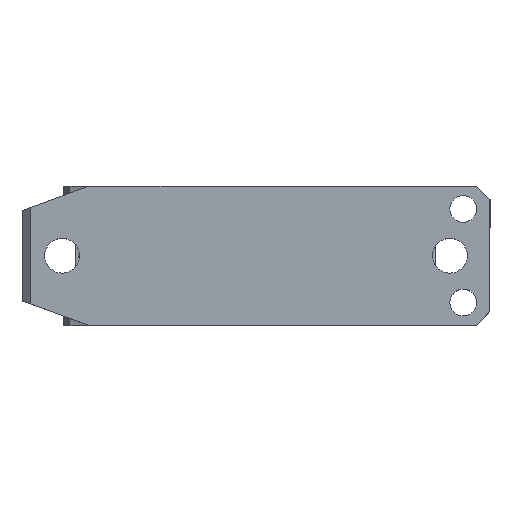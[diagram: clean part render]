
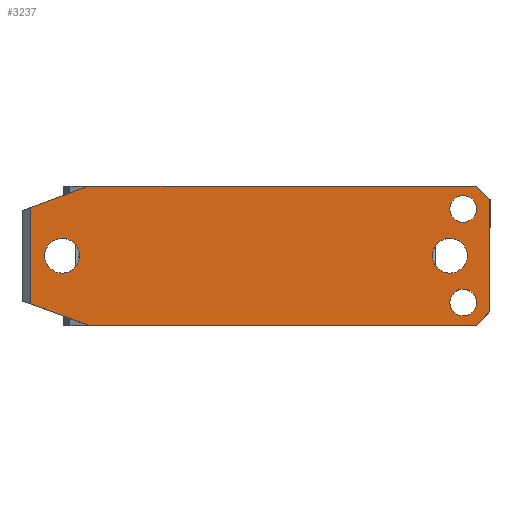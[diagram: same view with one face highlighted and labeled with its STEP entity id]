
A CAD part, top view. The second image highlights one B-rep face of the part: STEP entity #3237.
In plain terms, the highlighted planar face has unit normal (0, 0, 1).
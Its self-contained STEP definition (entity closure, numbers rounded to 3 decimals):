
#105 = VERTEX_POINT ( 'NONE', #7872 ) ;
#381 = DIRECTION ( 'NONE',  ( -1., 0., 0. ) ) ;
#540 = CARTESIAN_POINT ( 'NONE',  ( 140., -17.5, 125. ) ) ;
#651 = EDGE_LOOP ( 'NONE', ( #8095, #11744 ) ) ;
#771 = CARTESIAN_POINT ( 'NONE',  ( -17., -17.993, 125. ) ) ;
#791 = DIRECTION ( 'NONE',  ( 0., 0., -1. ) ) ;
#819 = DIRECTION ( 'NONE',  ( 0., -1., 0. ) ) ;
#874 = CARTESIAN_POINT ( 'NONE',  ( -5., 0., 125. ) ) ;
#1059 = CARTESIAN_POINT ( 'NONE',  ( 150., -26., 125. ) ) ;
#1080 = CARTESIAN_POINT ( 'NONE',  ( 140., 17.5, 125. ) ) ;
#1112 = CARTESIAN_POINT ( 'NONE',  ( -20., 26., 125. ) ) ;
#1216 = CIRCLE ( 'NONE', #6002, 6.5 ) ;
#1329 = CARTESIAN_POINT ( 'NONE',  ( -20., 16.901, 125. ) ) ;
#1433 = ORIENTED_EDGE ( 'NONE', *, *, #5588, .T. ) ;
#1488 = EDGE_LOOP ( 'NONE', ( #11211, #3360 ) ) ;
#1508 = DIRECTION ( 'NONE',  ( 0., 0., -1. ) ) ;
#1743 = EDGE_CURVE ( 'NONE', #5722, #10485, #10820, .T. ) ;
#1792 = CARTESIAN_POINT ( 'NONE',  ( 5., -26., 125. ) ) ;
#1804 = DIRECTION ( 'NONE',  ( -1., 0., 0. ) ) ;
#1841 = AXIS2_PLACEMENT_3D ( 'NONE', #6328, #791, #7256 ) ;
#1941 = VERTEX_POINT ( 'NONE', #8488 ) ;
#2095 = CARTESIAN_POINT ( 'NONE',  ( 150., 26., 125. ) ) ;
#2096 = EDGE_CURVE ( 'NONE', #8014, #8922, #7584, .T. ) ;
#2205 = AXIS2_PLACEMENT_3D ( 'NONE', #4072, #10488, #4990 ) ;
#2256 = DIRECTION ( 'NONE',  ( 0., -1., 0. ) ) ;
#2323 = ORIENTED_EDGE ( 'NONE', *, *, #6533, .T. ) ;
#2497 = FACE_OUTER_BOUND ( 'NONE', #7180, .T. ) ;
#2715 = CARTESIAN_POINT ( 'NONE',  ( 1.5, 0., 125. ) ) ;
#2784 = CARTESIAN_POINT ( 'NONE',  ( 150., -26., 125. ) ) ;
#2788 = FACE_BOUND ( 'NONE', #5138, .T. ) ;
#2931 = CARTESIAN_POINT ( 'NONE',  ( 5., 26., 125. ) ) ;
#3010 = VERTEX_POINT ( 'NONE', #1059 ) ;
#3023 = LINE ( 'NONE', #11873, #4905 ) ;
#3174 = EDGE_CURVE ( 'NONE', #4114, #11222, #1216, .T. ) ;
#3237 = ADVANCED_FACE ( 'NONE', ( #7416, #9854, #2788, #4964, #2497 ), #9668, .F. ) ;
#3264 = DIRECTION ( 'NONE',  ( 0., 0., -1. ) ) ;
#3360 = ORIENTED_EDGE ( 'NONE', *, *, #11941, .T. ) ;
#3486 = CARTESIAN_POINT ( 'NONE',  ( 145., -17.5, 125. ) ) ;
#3714 = CARTESIAN_POINT ( 'NONE',  ( 145., -17.5, 125. ) ) ;
#3988 = AXIS2_PLACEMENT_3D ( 'NONE', #874, #7328, #1804 ) ;
#3994 = VECTOR ( 'NONE', #5038, 1000. ) ;
#4072 = CARTESIAN_POINT ( 'NONE',  ( 145., 17.5, 125. ) ) ;
#4090 = CARTESIAN_POINT ( 'NONE',  ( 150., 26., 125. ) ) ;
#4114 = VERTEX_POINT ( 'NONE', #6045 ) ;
#4187 = ORIENTED_EDGE ( 'NONE', *, *, #2096, .F. ) ;
#4229 = DIRECTION ( 'NONE',  ( -0.94, 0.342, 0. ) ) ;
#4382 = LINE ( 'NONE', #4090, #11134 ) ;
#4426 = DIRECTION ( 'NONE',  ( -1., 0., 0. ) ) ;
#4516 = DIRECTION ( 'NONE',  ( 0., 0., -1. ) ) ;
#4630 = DIRECTION ( 'NONE',  ( -1., 0., 0. ) ) ;
#4833 = CARTESIAN_POINT ( 'NONE',  ( 150., -17.5, 125. ) ) ;
#4870 = EDGE_CURVE ( 'NONE', #11869, #9273, #11830, .T. ) ;
#4905 = VECTOR ( 'NONE', #819, 1000. ) ;
#4964 = FACE_BOUND ( 'NONE', #7577, .T. ) ;
#4990 = DIRECTION ( 'NONE',  ( -1., 0., 0. ) ) ;
#5004 = DIRECTION ( 'NONE',  ( 0.707, -0.707, 0. ) ) ;
#5031 = VECTOR ( 'NONE', #10584, 1000. ) ;
#5033 = EDGE_CURVE ( 'NONE', #105, #3010, #8234, .T. ) ;
#5038 = DIRECTION ( 'NONE',  ( 0.94, 0.342, 0. ) ) ;
#5076 = CARTESIAN_POINT ( 'NONE',  ( -20., -26., 125. ) ) ;
#5132 = AXIS2_PLACEMENT_3D ( 'NONE', #10023, #4516, #10936 ) ;
#5138 = EDGE_LOOP ( 'NONE', ( #9508, #1433 ) ) ;
#5251 = ORIENTED_EDGE ( 'NONE', *, *, #9690, .T. ) ;
#5273 = EDGE_CURVE ( 'NONE', #7633, #1941, #4382, .T. ) ;
#5501 = CIRCLE ( 'NONE', #3988, 6.5 ) ;
#5553 = AXIS2_PLACEMENT_3D ( 'NONE', #3714, #10144, #4630 ) ;
#5588 = EDGE_CURVE ( 'NONE', #10003, #9485, #5501, .T. ) ;
#5705 = DIRECTION ( 'NONE',  ( 1., 0., 0. ) ) ;
#5722 = VERTEX_POINT ( 'NONE', #1080 ) ;
#5926 = DIRECTION ( 'NONE',  ( 0., 0., -1. ) ) ;
#6002 = AXIS2_PLACEMENT_3D ( 'NONE', #11449, #5926, #381 ) ;
#6045 = CARTESIAN_POINT ( 'NONE',  ( 133.5, 0., 125. ) ) ;
#6076 = VERTEX_POINT ( 'NONE', #2931 ) ;
#6282 = ORIENTED_EDGE ( 'NONE', *, *, #5273, .F. ) ;
#6328 = CARTESIAN_POINT ( 'NONE',  ( -5., 0., 125. ) ) ;
#6477 = LINE ( 'NONE', #1112, #8625 ) ;
#6524 = EDGE_CURVE ( 'NONE', #11222, #4114, #10094, .T. ) ;
#6533 = EDGE_CURVE ( 'NONE', #10248, #8922, #3023, .T. ) ;
#6730 = LINE ( 'NONE', #1329, #3994 ) ;
#6760 = CARTESIAN_POINT ( 'NONE',  ( -17., 17.993, 125. ) ) ;
#7036 = CARTESIAN_POINT ( 'NONE',  ( 145., 17.5, 125. ) ) ;
#7040 = CIRCLE ( 'NONE', #1841, 6.5 ) ;
#7180 = EDGE_LOOP ( 'NONE', ( #11453, #2323, #4187, #5251, #10435, #7229, #6282, #10336 ) ) ;
#7229 = ORIENTED_EDGE ( 'NONE', *, *, #11976, .F. ) ;
#7256 = DIRECTION ( 'NONE',  ( -1., 0., 0. ) ) ;
#7328 = DIRECTION ( 'NONE',  ( 0., 0., -1. ) ) ;
#7343 = DIRECTION ( 'NONE',  ( -0.707, -0.707, 0. ) ) ;
#7416 = FACE_BOUND ( 'NONE', #651, .T. ) ;
#7487 = LINE ( 'NONE', #7799, #9640 ) ;
#7577 = EDGE_LOOP ( 'NONE', ( #10373, #11130 ) ) ;
#7584 = LINE ( 'NONE', #9727, #9728 ) ;
#7590 = EDGE_CURVE ( 'NONE', #6076, #7633, #6477, .T. ) ;
#7633 = VERTEX_POINT ( 'NONE', #2095 ) ;
#7799 = CARTESIAN_POINT ( 'NONE',  ( 155., 26., 125. ) ) ;
#7872 = CARTESIAN_POINT ( 'NONE',  ( 155., -21., 125. ) ) ;
#7966 = DIRECTION ( 'NONE',  ( -1., 0., 0. ) ) ;
#8014 = VERTEX_POINT ( 'NONE', #1792 ) ;
#8095 = ORIENTED_EDGE ( 'NONE', *, *, #10035, .T. ) ;
#8234 = LINE ( 'NONE', #2784, #10101 ) ;
#8335 = CIRCLE ( 'NONE', #5553, 5. ) ;
#8488 = CARTESIAN_POINT ( 'NONE',  ( 155., 21., 125. ) ) ;
#8612 = AXIS2_PLACEMENT_3D ( 'NONE', #7036, #1508, #7966 ) ;
#8625 = VECTOR ( 'NONE', #5705, 1000. ) ;
#8780 = CARTESIAN_POINT ( 'NONE',  ( -20., 26., 125. ) ) ;
#8918 = CARTESIAN_POINT ( 'NONE',  ( 150., 17.5, 125. ) ) ;
#8922 = VERTEX_POINT ( 'NONE', #771 ) ;
#9273 = VERTEX_POINT ( 'NONE', #540 ) ;
#9485 = VERTEX_POINT ( 'NONE', #10159 ) ;
#9508 = ORIENTED_EDGE ( 'NONE', *, *, #9928, .T. ) ;
#9640 = VECTOR ( 'NONE', #2256, 1000. ) ;
#9668 = PLANE ( 'NONE',  #11555 ) ;
#9690 = EDGE_CURVE ( 'NONE', #8014, #3010, #9920, .T. ) ;
#9705 = DIRECTION ( 'NONE',  ( -1., 0., 0. ) ) ;
#9727 = CARTESIAN_POINT ( 'NONE',  ( -20., -16.901, 125. ) ) ;
#9728 = VECTOR ( 'NONE', #4229, 1000. ) ;
#9854 = FACE_BOUND ( 'NONE', #1488, .T. ) ;
#9913 = DIRECTION ( 'NONE',  ( 0., 0., -1. ) ) ;
#9920 = LINE ( 'NONE', #5076, #5031 ) ;
#9928 = EDGE_CURVE ( 'NONE', #9485, #10003, #7040, .T. ) ;
#9929 = CIRCLE ( 'NONE', #2205, 5. ) ;
#10003 = VERTEX_POINT ( 'NONE', #2715 ) ;
#10023 = CARTESIAN_POINT ( 'NONE',  ( 140., 0., 125. ) ) ;
#10035 = EDGE_CURVE ( 'NONE', #9273, #11869, #8335, .T. ) ;
#10094 = CIRCLE ( 'NONE', #5132, 6.5 ) ;
#10101 = VECTOR ( 'NONE', #7343, 1000. ) ;
#10144 = DIRECTION ( 'NONE',  ( 0., 0., -1. ) ) ;
#10159 = CARTESIAN_POINT ( 'NONE',  ( -11.5, 0., 125. ) ) ;
#10248 = VERTEX_POINT ( 'NONE', #6760 ) ;
#10336 = ORIENTED_EDGE ( 'NONE', *, *, #7590, .F. ) ;
#10373 = ORIENTED_EDGE ( 'NONE', *, *, #3174, .T. ) ;
#10435 = ORIENTED_EDGE ( 'NONE', *, *, #5033, .F. ) ;
#10485 = VERTEX_POINT ( 'NONE', #8918 ) ;
#10488 = DIRECTION ( 'NONE',  ( 0., 0., -1. ) ) ;
#10569 = AXIS2_PLACEMENT_3D ( 'NONE', #3486, #9913, #4426 ) ;
#10584 = DIRECTION ( 'NONE',  ( 1., 0., 0. ) ) ;
#10820 = CIRCLE ( 'NONE', #8612, 5. ) ;
#10936 = DIRECTION ( 'NONE',  ( -1., 0., 0. ) ) ;
#11130 = ORIENTED_EDGE ( 'NONE', *, *, #6524, .T. ) ;
#11134 = VECTOR ( 'NONE', #5004, 1000. ) ;
#11211 = ORIENTED_EDGE ( 'NONE', *, *, #1743, .T. ) ;
#11222 = VERTEX_POINT ( 'NONE', #11240 ) ;
#11240 = CARTESIAN_POINT ( 'NONE',  ( 146.5, 0., 125. ) ) ;
#11362 = EDGE_CURVE ( 'NONE', #10248, #6076, #6730, .T. ) ;
#11449 = CARTESIAN_POINT ( 'NONE',  ( 140., 0., 125. ) ) ;
#11453 = ORIENTED_EDGE ( 'NONE', *, *, #11362, .F. ) ;
#11555 = AXIS2_PLACEMENT_3D ( 'NONE', #8780, #3264, #9705 ) ;
#11744 = ORIENTED_EDGE ( 'NONE', *, *, #4870, .T. ) ;
#11830 = CIRCLE ( 'NONE', #10569, 5. ) ;
#11869 = VERTEX_POINT ( 'NONE', #4833 ) ;
#11873 = CARTESIAN_POINT ( 'NONE',  ( -17., 26., 125. ) ) ;
#11941 = EDGE_CURVE ( 'NONE', #10485, #5722, #9929, .T. ) ;
#11976 = EDGE_CURVE ( 'NONE', #1941, #105, #7487, .T. ) ;
